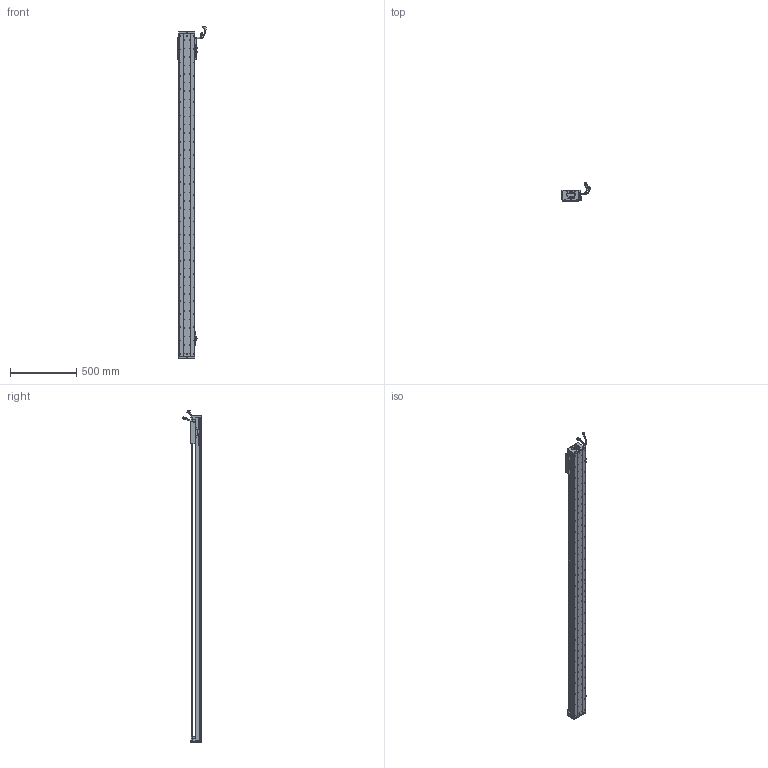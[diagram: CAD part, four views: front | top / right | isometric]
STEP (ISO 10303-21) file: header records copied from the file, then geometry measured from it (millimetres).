
FILE_DESCRIPTION (( 'STEP AP203' ), '1' );
FILE_NAME ('Z2-RY120D-1-L500-B-K.SLDASM_2200.step', '2021-05-17T05:38:15', ( '盈信电脑' ), ( '东莞市道滘镇水果街19号' ), 'SwSTEP 2.0', 'SolidWorks 2016', '' );
FILE_SCHEMA (( 'CONFIG_CONTROL_DESIGN' ));
Length unit declared in the file: millimetre
Products named in the file (37): PSLH080_PSLF2; SCREW-M1.6-3; HOLDER0; COVER-Part-1; SHIELDPLATE; 140雄赽晤鎢ん堤盄; 080黍杅芛假蚾釱21遴; SCALE; HARNESS; SCREW-M1.6; 榋妏寠巭燃_暯_M2_2; HARNESS-Part-2; SCREW-M1.7-1; LABEL; SCREW-M1.6-2; 140蚥薯蝶輸; COVER; Z2-RY120-500-倰第菁釱_2200; PBU_SHEET; SEAL; 120-Z-臏賑輸盄裔(21遴); Z-120詩湍傷裔啣; LABEL-Part-1; Z-RY120D詩湍奻揤裔; Z2-RY120-L500詩湍100mm遵_2200; HARNESS-Part-1; SCALE-Part-1; SCREW-M1.6-1; Z2-RY120D-1-L500-B-K.SLDASM_2200; 672嫖萇羲壽假蚾釱; Z-RY120D詩湍狟揤裔; SEAL-Part-1; RY100FB-遵嫖萇覜茼え; 覜茼ん672; SCREW-M1.7; SCALE-Part-2; Z2-RY120铝滑块（21款）
Assembly tree (43 placements, depth 4):
  Z2-RY120D-1-L500-B-K.SLDASM_2200
    Z2-RY120-500-倰第菁釱_2200
    覜茼ん672  x3
    672嫖萇羲壽假蚾釱  x2
    Z2-RY120铝滑块（21款）
    PSLH080_PSLF2
      SCALE
        SCALE-Part-1
        SCALE-Part-2
      HARNESS
        HARNESS-Part-1
        HARNESS-Part-2
      LABEL
        LABEL-Part-1
      COVER
        COVER-Part-1
      SEAL
        SEAL-Part-1
      榋妏寠巭燃_暯_M2_2
      SHIELDPLATE
      SCREW-M1.7
      SCREW-M1.7-1
      PBU_SHEET
      SCREW-M1.6
      SCREW-M1.6-1
      SCREW-M1.6-2
      SCREW-M1.6-3
      HOLDER0
    080黍杅芛假蚾釱21遴
    120-Z-臏賑輸盄裔(21遴)
    140雄赽晤鎢ん堤盄
    140蚥薯蝶輸  x2
    RY100FB-遵嫖萇覜茼え
    Z-120詩湍傷裔啣  x2
    Z-RY120D詩湍奻揤裔  x2
    Z-RY120D詩湍狟揤裔  x2
    Z2-RY120-L500詩湍100mm遵_2200
Bounding box: 222.88 x 140.94 x 2508.99 mm (x, y, z)
Volume: 5785446.8 mm3; surface area: 2045403.6 mm2
Topology: 38 solids, 38 shells, 3601 faces, 10230 edges, 6461 vertices
Faces by surface type: cylinder 1874, plane 1239, cone 366, torus 69, bspline 53
Entity records: 120316 total; most frequent: CARTESIAN_POINT 36742, ORIENTED_EDGE 17256, DIRECTION 15836, EDGE_CURVE 8628, AXIS2_PLACEMENT_3D 5846, VERTEX_POINT 5581, LINE 4144, VECTOR 4144
